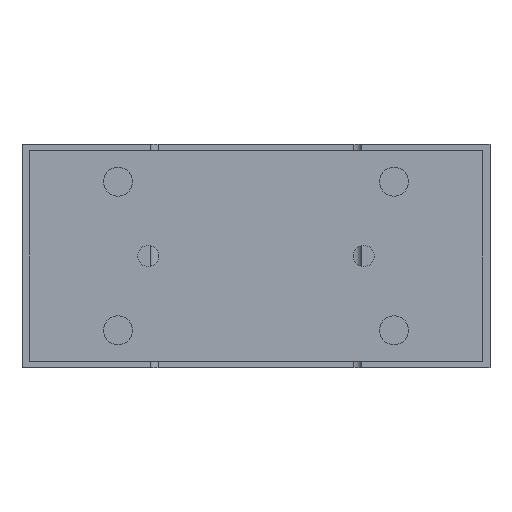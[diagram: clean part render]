
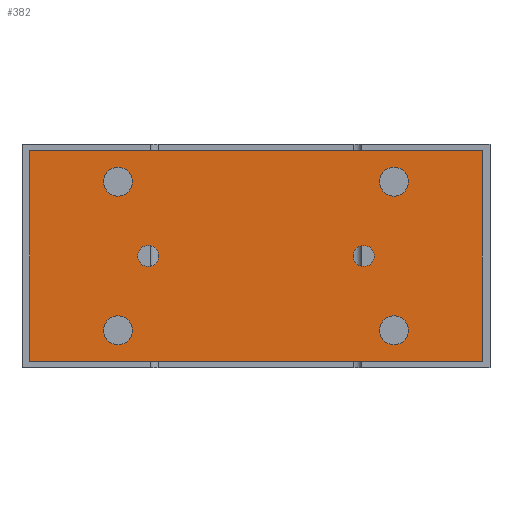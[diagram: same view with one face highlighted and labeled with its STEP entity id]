
A CAD part, left-side view. The second image highlights one B-rep face of the part: STEP entity #382.
In plain terms, the highlighted planar face has unit normal (-1, 0, 0).
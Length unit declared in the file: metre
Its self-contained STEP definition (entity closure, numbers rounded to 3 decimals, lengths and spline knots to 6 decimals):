
#382 = ADVANCED_FACE( '', ( #951, #952, #953, #954, #955, #956, #957 ), #958, .T. );
#951 = FACE_BOUND( '', #1751, .T. );
#952 = FACE_BOUND( '', #1752, .T. );
#953 = FACE_BOUND( '', #1753, .T. );
#954 = FACE_BOUND( '', #1754, .T. );
#955 = FACE_BOUND( '', #1755, .T. );
#956 = FACE_BOUND( '', #1756, .T. );
#957 = FACE_OUTER_BOUND( '', #1757, .T. );
#958 = PLANE( '', #1758 );
#1751 = EDGE_LOOP( '', ( #2802 ) );
#1752 = EDGE_LOOP( '', ( #2803 ) );
#1753 = EDGE_LOOP( '', ( #2804 ) );
#1754 = EDGE_LOOP( '', ( #2805 ) );
#1755 = EDGE_LOOP( '', ( #2806 ) );
#1756 = EDGE_LOOP( '', ( #2807 ) );
#1757 = EDGE_LOOP( '', ( #2808, #2809, #2810, #2811 ) );
#1758 = AXIS2_PLACEMENT_3D( '', #2812, #2813, #2814 );
#2802 = ORIENTED_EDGE( '', *, *, #4086, .F. );
#2803 = ORIENTED_EDGE( '', *, *, #4087, .F. );
#2804 = ORIENTED_EDGE( '', *, *, #4088, .F. );
#2805 = ORIENTED_EDGE( '', *, *, #4069, .F. );
#2806 = ORIENTED_EDGE( '', *, *, #4089, .F. );
#2807 = ORIENTED_EDGE( '', *, *, #4090, .T. );
#2808 = ORIENTED_EDGE( '', *, *, #4091, .T. );
#2809 = ORIENTED_EDGE( '', *, *, #3865, .T. );
#2810 = ORIENTED_EDGE( '', *, *, #3837, .T. );
#2811 = ORIENTED_EDGE( '', *, *, #4056, .T. );
#2812 = CARTESIAN_POINT( '', ( -0.118, -0.086, -0.0025 ) );
#2813 = DIRECTION( '', ( -1., 0., 0. ) );
#2814 = DIRECTION( '', ( 0., 0., 1. ) );
#3837 = EDGE_CURVE( '', #4424, #4422, #4425, .T. );
#3865 = EDGE_CURVE( '', #4473, #4424, #4474, .T. );
#4056 = EDGE_CURVE( '', #4422, #4793, #4795, .T. );
#4069 = EDGE_CURVE( '', #4813, #4813, #4814, .T. );
#4086 = EDGE_CURVE( '', #4836, #4836, #4837, .T. );
#4087 = EDGE_CURVE( '', #4838, #4838, #4839, .T. );
#4088 = EDGE_CURVE( '', #4840, #4840, #4841, .T. );
#4089 = EDGE_CURVE( '', #4842, #4842, #4843, .T. );
#4090 = EDGE_CURVE( '', #4844, #4844, #4845, .T. );
#4091 = EDGE_CURVE( '', #4793, #4473, #4846, .T. );
#4422 = VERTEX_POINT( '', #5266 );
#4424 = VERTEX_POINT( '', #5269 );
#4425 = LINE( '', #5270, #5271 );
#4473 = VERTEX_POINT( '', #5333 );
#4474 = LINE( '', #5334, #5335 );
#4793 = VERTEX_POINT( '', #5838 );
#4795 = LINE( '', #5841, #5842 );
#4813 = VERTEX_POINT( '', #5866 );
#4814 = CIRCLE( '', #5867, 0.0055 );
#4836 = VERTEX_POINT( '', #5891 );
#4837 = CIRCLE( '', #5892, 0.0055 );
#4838 = VERTEX_POINT( '', #5893 );
#4839 = CIRCLE( '', #5894, 0.0055 );
#4840 = VERTEX_POINT( '', #5895 );
#4841 = CIRCLE( '', #5896, 0.0055 );
#4842 = VERTEX_POINT( '', #5897 );
#4843 = CIRCLE( '', #5898, 0.004 );
#4844 = VERTEX_POINT( '', #5899 );
#4845 = CIRCLE( '', #5900, 0.004 );
#4846 = LINE( '', #5901, #5902 );
#5266 = CARTESIAN_POINT( '', ( -0.118, 0.086, -0.0825 ) );
#5269 = CARTESIAN_POINT( '', ( -0.118, 0.086, -0.0025 ) );
#5270 = CARTESIAN_POINT( '', ( -0.118, 0.086, -0.0025 ) );
#5271 = VECTOR( '', #6538, 1. );
#5333 = CARTESIAN_POINT( '', ( -0.118, -0.086, -0.0025 ) );
#5334 = CARTESIAN_POINT( '', ( -0.118, -0.086, -0.0025 ) );
#5335 = VECTOR( '', #6574, 1. );
#5838 = CARTESIAN_POINT( '', ( -0.118, -0.086, -0.0825 ) );
#5841 = CARTESIAN_POINT( '', ( -0.118, 0.086, -0.0825 ) );
#5842 = VECTOR( '', #6832, 1. );
#5866 = CARTESIAN_POINT( '', ( -0.118, 0.0525, -0.00875 ) );
#5867 = AXIS2_PLACEMENT_3D( '', #6842, #6843, #6844 );
#5891 = CARTESIAN_POINT( '', ( -0.118, -0.0525, -0.06525 ) );
#5892 = AXIS2_PLACEMENT_3D( '', #6862, #6863, #6864 );
#5893 = CARTESIAN_POINT( '', ( -0.118, 0.0525, -0.06525 ) );
#5894 = AXIS2_PLACEMENT_3D( '', #6865, #6866, #6867 );
#5895 = CARTESIAN_POINT( '', ( -0.118, -0.0525, -0.00875 ) );
#5896 = AXIS2_PLACEMENT_3D( '', #6868, #6869, #6870 );
#5897 = CARTESIAN_POINT( '', ( -0.118, -0.037, -0.0425 ) );
#5898 = AXIS2_PLACEMENT_3D( '', #6871, #6872, #6873 );
#5899 = CARTESIAN_POINT( '', ( -0.118, 0.037, -0.0425 ) );
#5900 = AXIS2_PLACEMENT_3D( '', #6874, #6875, #6876 );
#5901 = CARTESIAN_POINT( '', ( -0.118, -0.086, -0.0825 ) );
#5902 = VECTOR( '', #6877, 1. );
#6538 = DIRECTION( '', ( 0., 0., -1. ) );
#6574 = DIRECTION( '', ( 0., 1., 0. ) );
#6832 = DIRECTION( '', ( 0., -1., 0. ) );
#6842 = CARTESIAN_POINT( '', ( -0.118, 0.0525, -0.01425 ) );
#6843 = DIRECTION( '', ( -1., 0., 0. ) );
#6844 = DIRECTION( '', ( 0., 0., 1. ) );
#6862 = CARTESIAN_POINT( '', ( -0.118, -0.0525, -0.07075 ) );
#6863 = DIRECTION( '', ( -1., 0., 0. ) );
#6864 = DIRECTION( '', ( 0., 0., 1. ) );
#6865 = CARTESIAN_POINT( '', ( -0.118, 0.0525, -0.07075 ) );
#6866 = DIRECTION( '', ( -1., 0., 0. ) );
#6867 = DIRECTION( '', ( 0., 0., 1. ) );
#6868 = CARTESIAN_POINT( '', ( -0.118, -0.0525, -0.01425 ) );
#6869 = DIRECTION( '', ( -1., 0., 0. ) );
#6870 = DIRECTION( '', ( 0., 0., 1. ) );
#6871 = CARTESIAN_POINT( '', ( -0.118, -0.041, -0.0425 ) );
#6872 = DIRECTION( '', ( -1., 0., 0. ) );
#6873 = DIRECTION( '', ( 0., 1., 0. ) );
#6874 = CARTESIAN_POINT( '', ( -0.118, 0.041, -0.0425 ) );
#6875 = DIRECTION( '', ( 1., 0., 0. ) );
#6876 = DIRECTION( '', ( 0., -1., 0. ) );
#6877 = DIRECTION( '', ( 0., 0., 1. ) );
